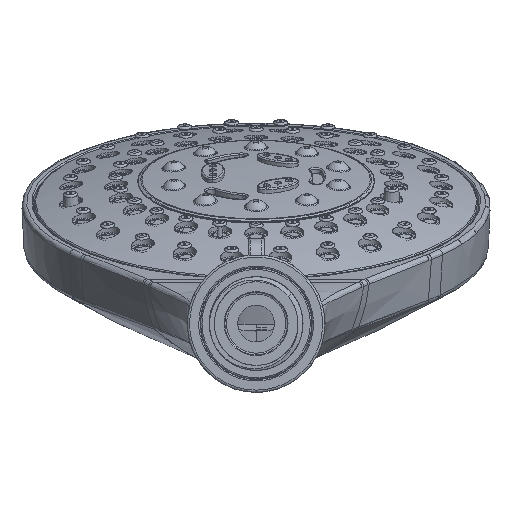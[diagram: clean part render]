
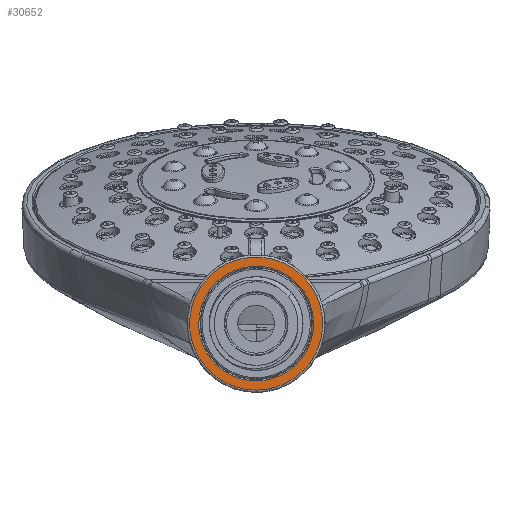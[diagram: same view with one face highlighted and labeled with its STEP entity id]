
A CAD part, front view. The second image highlights one B-rep face of the part: STEP entity #30652.
In plain terms, the highlighted planar face has unit normal (0, -1, 0).
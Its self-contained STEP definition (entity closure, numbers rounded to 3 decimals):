
#1633=FACE_BOUND('',#6013,.T.);
#2146=PLANE('',#33937);
#3802=FACE_OUTER_BOUND('',#6012,.T.);
#6012=EDGE_LOOP('',(#27933,#27934,#27935,#27936,#27937));
#6013=EDGE_LOOP('',(#27938));
#7776=CIRCLE('',#33936,12.497);
#7777=CIRCLE('',#33938,14.526);
#7778=CIRCLE('',#33939,14.487);
#9333=B_SPLINE_CURVE_WITH_KNOTS('',3,(#135795,#135796,#135797,#135798,#135799,
#135800,#135801,#135802,#135803,#135804,#135805,#135806,#135807,#135808,
#135809,#135810),.UNSPECIFIED.,.F.,.F.,(4,3,3,3,3,4),(0.,0.2,0.4,0.6,0.8,
1.),.UNSPECIFIED.);
#9334=B_SPLINE_CURVE_WITH_KNOTS('',3,(#135814,#135815,#135816,#135817,#135818,
#135819,#135820,#135821),.UNSPECIFIED.,.F.,.F.,(4,1,1,1,1,4),(0.,
0.2,0.4,0.6,0.8,1.),.UNSPECIFIED.);
#9335=B_SPLINE_CURVE_WITH_KNOTS('',3,(#135822,#135823,#135824,#135825,#135826,
#135827,#135828,#135829,#135830,#135831,#135832,#135833,#135834,#135835,
#135836,#135837,#135838,#135839,#135840,#135841,#135842,#135843),
 .UNSPECIFIED.,.F.,.F.,(4,3,3,3,3,3,3,4),(0.,0.109,0.253,
0.41,0.574,0.734,0.884,1.),
 .UNSPECIFIED.);
#14506=VERTEX_POINT('',#135787);
#14507=VERTEX_POINT('',#135791);
#14508=VERTEX_POINT('',#135792);
#14509=VERTEX_POINT('',#135794);
#14510=VERTEX_POINT('',#135811);
#14511=VERTEX_POINT('',#135813);
#19018=EDGE_CURVE('',#14506,#14506,#7776,.T.);
#19019=EDGE_CURVE('',#14507,#14508,#7777,.T.);
#19020=EDGE_CURVE('',#14509,#14507,#9333,.T.);
#19021=EDGE_CURVE('',#14510,#14509,#7778,.T.);
#19022=EDGE_CURVE('',#14510,#14511,#9334,.T.);
#19023=EDGE_CURVE('',#14508,#14511,#9335,.T.);
#27933=ORIENTED_EDGE('',*,*,#19019,.F.);
#27934=ORIENTED_EDGE('',*,*,#19020,.F.);
#27935=ORIENTED_EDGE('',*,*,#19021,.F.);
#27936=ORIENTED_EDGE('',*,*,#19022,.T.);
#27937=ORIENTED_EDGE('',*,*,#19023,.F.);
#27938=ORIENTED_EDGE('',*,*,#19018,.F.);
#30652=ADVANCED_FACE('',(#3802,#1633),#2146,.T.);
#33936=AXIS2_PLACEMENT_3D('',#135789,#41351,#41352);
#33937=AXIS2_PLACEMENT_3D('',#135790,#41353,#41354);
#33938=AXIS2_PLACEMENT_3D('',#135793,#41355,#41356);
#33939=AXIS2_PLACEMENT_3D('',#135812,#41357,#41358);
#41351=DIRECTION('center_axis',(0.,-1.,0.));
#41352=DIRECTION('ref_axis',(0.,0.,
-1.));
#41353=DIRECTION('center_axis',(0.,-1.,0.));
#41354=DIRECTION('ref_axis',(0.,0.,1.));
#41355=DIRECTION('center_axis',(0.,1.,0.));
#41356=DIRECTION('ref_axis',(0.808,0.,-0.589));
#41357=DIRECTION('center_axis',(0.,1.,0.));
#41358=DIRECTION('ref_axis',(-0.907,0.,0.421));
#135787=CARTESIAN_POINT('',(194.87,-31.485,-12.474));
#135789=CARTESIAN_POINT('Origin',(194.108,-31.485,0.));
#135790=CARTESIAN_POINT('Origin',(234.778,-31.485,-23.908));
#135791=CARTESIAN_POINT('',(205.839,-31.485,-8.516));
#135792=CARTESIAN_POINT('',(194.109,-31.485,-14.486));
#135793=CARTESIAN_POINT('Origin',(194.1,-31.485,0.04));
#135794=CARTESIAN_POINT('',(207.247,-31.485,6.087));
#135795=CARTESIAN_POINT('Ctrl Pts',(207.248,-31.485,
6.081));
#135796=CARTESIAN_POINT('Ctrl Pts',(207.681,-31.485,
5.13));
#135797=CARTESIAN_POINT('Ctrl Pts',(208.006,-31.485,
4.164));
#135798=CARTESIAN_POINT('Ctrl Pts',(208.23,-31.485,3.166));
#135799=CARTESIAN_POINT('Ctrl Pts',(208.453,-31.485,2.169));
#135800=CARTESIAN_POINT('Ctrl Pts',(208.574,-31.485,
1.139));
#135801=CARTESIAN_POINT('Ctrl Pts',(208.584,-31.485,
0.109));
#135802=CARTESIAN_POINT('Ctrl Pts',(208.595,-31.485,-0.921));
#135803=CARTESIAN_POINT('Ctrl Pts',(208.494,-31.485,
-1.952));
#135804=CARTESIAN_POINT('Ctrl Pts',(208.286,-31.485,-2.959));
#135805=CARTESIAN_POINT('Ctrl Pts',(208.077,-31.485,
-3.967));
#135806=CARTESIAN_POINT('Ctrl Pts',(207.759,-31.485,
-4.952));
#135807=CARTESIAN_POINT('Ctrl Pts',(207.35,-31.485,
-5.881));
#135808=CARTESIAN_POINT('Ctrl Pts',(206.94,-31.485,
-6.811));
#135809=CARTESIAN_POINT('Ctrl Pts',(206.438,-31.485,
-7.686));
#135810=CARTESIAN_POINT('Ctrl Pts',(205.839,-31.485,
-8.516));
#135811=CARTESIAN_POINT('',(180.966,-31.485,6.079));
#135812=CARTESIAN_POINT('Origin',(194.108,-31.485,-0.017));
#135813=CARTESIAN_POINT('',(182.377,-31.485,-8.516));
#135814=CARTESIAN_POINT('Ctrl Pts',(180.966,-31.485,
6.079));
#135815=CARTESIAN_POINT('Ctrl Pts',(180.537,-31.485,5.142));
#135816=CARTESIAN_POINT('Ctrl Pts',(179.89,-31.485,
3.222));
#135817=CARTESIAN_POINT('Ctrl Pts',(179.518,-31.485,
0.123));
#135818=CARTESIAN_POINT('Ctrl Pts',(179.821,-31.485,
-2.99));
#135819=CARTESIAN_POINT('Ctrl Pts',(180.783,-31.485,
-5.956));
#135820=CARTESIAN_POINT('Ctrl Pts',(181.782,-31.485,
-7.695));
#135821=CARTESIAN_POINT('Ctrl Pts',(182.377,-31.485,
-8.516));
#135822=CARTESIAN_POINT('Ctrl Pts',(194.109,-31.485,
-14.486));
#135823=CARTESIAN_POINT('Ctrl Pts',(193.612,-31.485,
-14.485));
#135824=CARTESIAN_POINT('Ctrl Pts',(193.114,-31.485,
-14.459));
#135825=CARTESIAN_POINT('Ctrl Pts',(192.619,-31.485,
-14.407));
#135826=CARTESIAN_POINT('Ctrl Pts',(191.967,-31.485,
-14.338));
#135827=CARTESIAN_POINT('Ctrl Pts',(191.32,-31.485,
-14.226));
#135828=CARTESIAN_POINT('Ctrl Pts',(190.682,-31.485,
-14.07));
#135829=CARTESIAN_POINT('Ctrl Pts',(189.988,-31.485,
-13.901));
#135830=CARTESIAN_POINT('Ctrl Pts',(189.307,-31.485,
-13.681));
#135831=CARTESIAN_POINT('Ctrl Pts',(188.645,-31.485,
-13.413));
#135832=CARTESIAN_POINT('Ctrl Pts',(187.954,-31.485,
-13.132));
#135833=CARTESIAN_POINT('Ctrl Pts',(187.286,-31.485,
-12.799));
#135834=CARTESIAN_POINT('Ctrl Pts',(186.646,-31.485,
-12.416));
#135835=CARTESIAN_POINT('Ctrl Pts',(186.019,-31.485,
-12.039));
#135836=CARTESIAN_POINT('Ctrl Pts',(185.42,-31.485,
-11.615));
#135837=CARTESIAN_POINT('Ctrl Pts',(184.856,-31.485,
-11.149));
#135838=CARTESIAN_POINT('Ctrl Pts',(184.331,-31.485,
-10.715));
#135839=CARTESIAN_POINT('Ctrl Pts',(183.836,-31.485,
-10.244));
#135840=CARTESIAN_POINT('Ctrl Pts',(183.377,-31.485,-9.741));
#135841=CARTESIAN_POINT('Ctrl Pts',(183.021,-31.485,
-9.351));
#135842=CARTESIAN_POINT('Ctrl Pts',(182.687,-31.485,
-8.942));
#135843=CARTESIAN_POINT('Ctrl Pts',(182.377,-31.485,-8.516));
